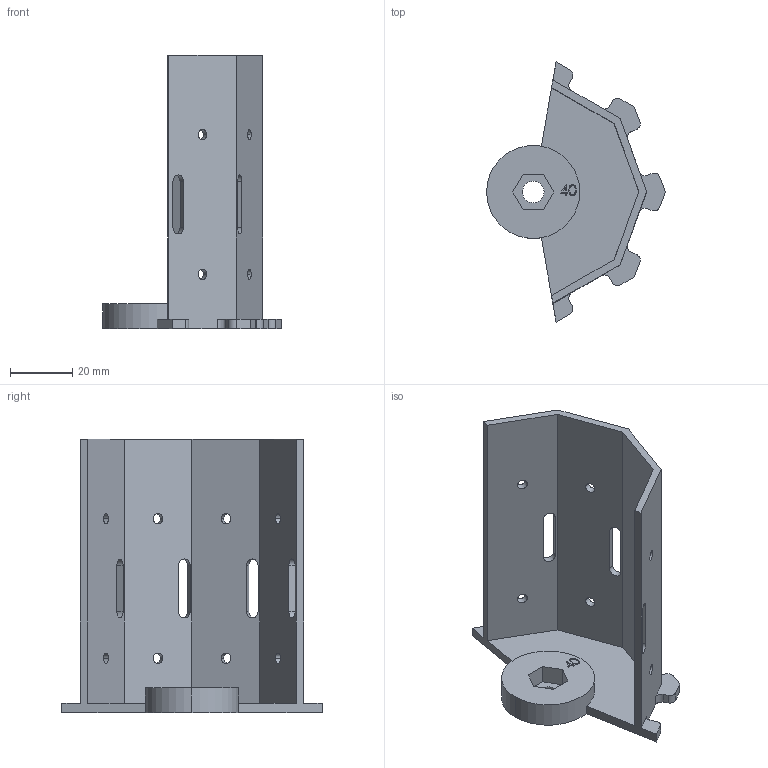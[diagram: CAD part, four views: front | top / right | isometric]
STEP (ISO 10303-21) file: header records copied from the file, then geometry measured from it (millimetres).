
FILE_DESCRIPTION (( 'STEP AP214' ), '1' );
FILE_NAME ('D415x4_multi.STEP', '2018-03-05T23:41:39', ( '' ), ( '' ), 'SwSTEP 2.0', 'SolidWorks 2017', '' );
FILE_SCHEMA (( 'AUTOMOTIVE_DESIGN' ));
Length unit declared in the file: millimetre
Products named in the file (1): D415x4_multi
Bounding box: 57.57 x 83.84 x 88 mm (x, y, z)
Volume: 28324.5 mm3; surface area: 22959.5 mm2
Topology: 1 solids, 1 shells, 128 faces, 363 edges, 242 vertices
Faces by surface type: plane 67, cylinder 52, bspline 9
Entity records: 4981 total; most frequent: CARTESIAN_POINT 1519, ORIENTED_EDGE 726, DIRECTION 691, EDGE_CURVE 363, VERTEX_POINT 242, VECTOR 239, LINE 239, AXIS2_PLACEMENT_3D 226
